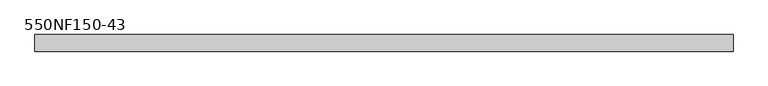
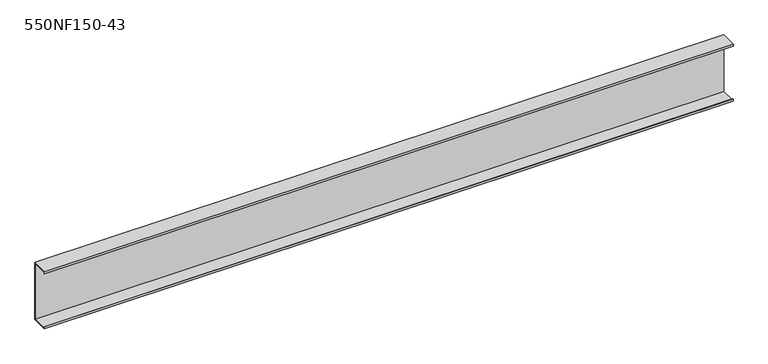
"""IFC4 building model written with IfcOpenShell, lengths in millimetres: beam geometry, BIMSF-SSMA-S : 550NF150-43."""

from ifc_helpers import new_model, si_unit, frame, origin, place, context, project, spatial, polyline, outline, extrude, source, transform, mapped, element, save


def beam_550nf150_43_ef4a749e(model_context):
    return source(origin(), model_context, "Body", "SweptSolid", [
        extrude(outline(polyline([(19.05, 69.85), (19.05, -69.85), (-19.05, -69.85), (-19.05, -65.0748), (-17.9003158, -65.0748), (-17.9003158, -68.7003158), (17.9003158, -68.7003158), (17.9003158, 68.7003158), (-17.9003158, 68.7003158), (-17.9003158, 65.0748), (-19.05, 65.0748), (-19.05, 69.85), (19.05, 69.85)])), frame((-800.1, 0.0, 0.0), z_axis=(1.0, 0.0, 0.0), x_axis=(0.0, 1.0, 0.0)), (0.0, 0.0, 1.0), 1600.2),
    ])


if __name__ == "__main__":
    model = new_model("IFC4")
    model_context = context("Model", 3, world=origin())
    ifc_project = project(units=[si_unit("LENGTHUNIT", "METRE", prefix="MILLI")], contexts=[model_context])
    site = spatial("IfcSite", under=ifc_project)
    building = spatial("IfcBuilding", under=site)
    placement = place(None, origin())
    beam_550nf150_43_shape = beam_550nf150_43_ef4a749e(model_context)
    element("IfcBeam", 1, ObjectType="BIMSF-SSMA-S : 550NF150-43", at=placement, inside=building, context=model_context, shape_type="MappedRepresentation", body=[
        mapped(beam_550nf150_43_shape, transform((0.0, 0.0, 0.0), x_axis=(1.0, 0.0, 0.0), y_axis=(0.0, 1.0, 0.0), z_axis=(0.0, 0.0, 1.0))),
    ])
    save(model, "model.ifc")
